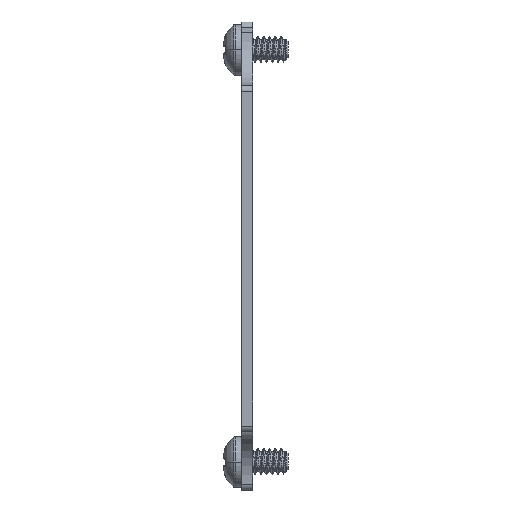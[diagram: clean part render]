
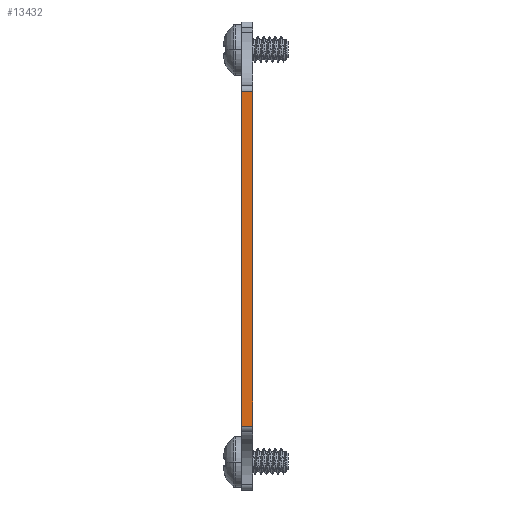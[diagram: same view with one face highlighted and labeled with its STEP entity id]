
A CAD part, left-side view. The second image highlights one B-rep face of the part: STEP entity #13432.
In plain terms, the highlighted planar face has unit normal (-1, 0, 0).
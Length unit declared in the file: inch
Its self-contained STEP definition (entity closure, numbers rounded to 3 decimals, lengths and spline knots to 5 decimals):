
#225 = LINE ( 'NONE', #3100, #13274 ) ;
#292 = DIRECTION ( 'NONE',  ( 1., 0., 0. ) ) ;
#746 = CARTESIAN_POINT ( 'NONE',  ( -1.35827, 0.06, -0.90994 ) ) ;
#1921 = VERTEX_POINT ( 'NONE', #10103 ) ;
#1936 = LINE ( 'NONE', #3163, #6548 ) ;
#2909 = CARTESIAN_POINT ( 'NONE',  ( -1.35827, 0.06, 0.88239 ) ) ;
#2941 = VECTOR ( 'NONE', #13696, 39.37008 ) ;
#3027 = CARTESIAN_POINT ( 'NONE',  ( -1.35827, 0.06, -0.90994 ) ) ;
#3100 = CARTESIAN_POINT ( 'NONE',  ( -1.35827, 0., -0.90994 ) ) ;
#3163 = CARTESIAN_POINT ( 'NONE',  ( -1.35827, 0.06, -0.90994 ) ) ;
#3549 = VERTEX_POINT ( 'NONE', #14513 ) ;
#3582 = VERTEX_POINT ( 'NONE', #15910 ) ;
#3886 = EDGE_CURVE ( 'NONE', #10499, #3582, #10967, .T. ) ;
#5927 = DIRECTION ( 'NONE',  ( 0., 0., -1. ) ) ;
#6548 = VECTOR ( 'NONE', #12421, 39.37008 ) ;
#6767 = EDGE_CURVE ( 'NONE', #10499, #1921, #1936, .T. ) ;
#7112 = ORIENTED_EDGE ( 'NONE', *, *, #6767, .T. ) ;
#7808 = EDGE_LOOP ( 'NONE', ( #10800, #8187, #10572, #7112 ) ) ;
#8187 = ORIENTED_EDGE ( 'NONE', *, *, #16114, .F. ) ;
#8482 = FACE_OUTER_BOUND ( 'NONE', #7808, .T. ) ;
#10103 = CARTESIAN_POINT ( 'NONE',  ( -1.35827, 0., -0.90994 ) ) ;
#10499 = VERTEX_POINT ( 'NONE', #746 ) ;
#10572 = ORIENTED_EDGE ( 'NONE', *, *, #3886, .F. ) ;
#10800 = ORIENTED_EDGE ( 'NONE', *, *, #16863, .T. ) ;
#10967 = LINE ( 'NONE', #3027, #2941 ) ;
#11121 = PLANE ( 'NONE',  #13798 ) ;
#11203 = LINE ( 'NONE', #2909, #11314 ) ;
#11309 = DIRECTION ( 'NONE',  ( 0., 0., 1. ) ) ;
#11314 = VECTOR ( 'NONE', #14006, 39.37008 ) ;
#12421 = DIRECTION ( 'NONE',  ( 0., -1., 0. ) ) ;
#13274 = VECTOR ( 'NONE', #11309, 39.37008 ) ;
#13432 = ADVANCED_FACE ( 'NONE', ( #8482 ), #11121, .F. ) ;
#13696 = DIRECTION ( 'NONE',  ( 0., 0., 1. ) ) ;
#13798 = AXIS2_PLACEMENT_3D ( 'NONE', #16296, #292, #5927 ) ;
#14006 = DIRECTION ( 'NONE',  ( 0., -1., 0. ) ) ;
#14513 = CARTESIAN_POINT ( 'NONE',  ( -1.35827, 0., 0.88239 ) ) ;
#15910 = CARTESIAN_POINT ( 'NONE',  ( -1.35827, 0.06, 0.88239 ) ) ;
#16114 = EDGE_CURVE ( 'NONE', #3582, #3549, #11203, .T. ) ;
#16296 = CARTESIAN_POINT ( 'NONE',  ( -1.35827, 0.06, -0.90994 ) ) ;
#16863 = EDGE_CURVE ( 'NONE', #1921, #3549, #225, .T. ) ;
